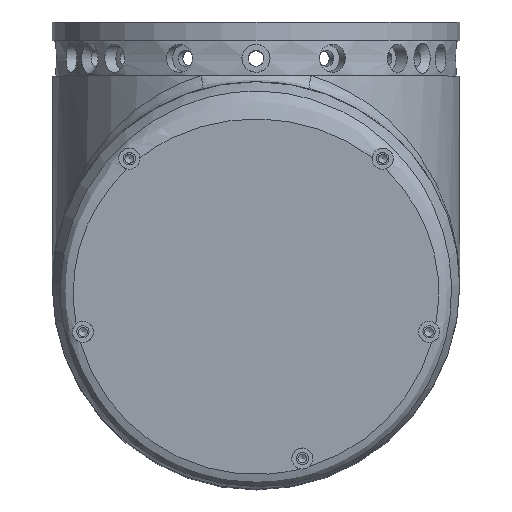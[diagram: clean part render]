
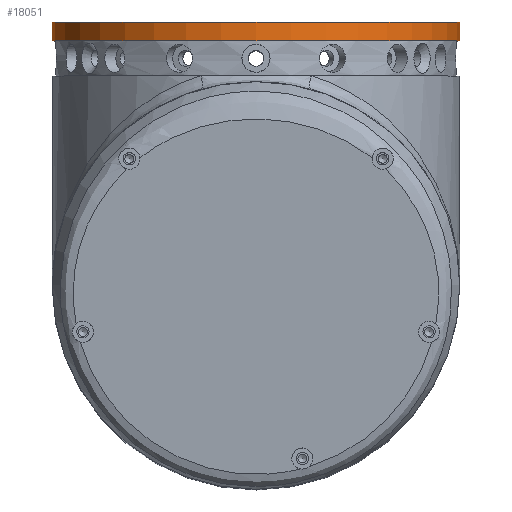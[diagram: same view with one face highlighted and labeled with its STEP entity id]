
A CAD part, top view. The second image highlights one B-rep face of the part: STEP entity #18051.
In plain terms, the highlighted cylindrical face has radius 58 mm (diameter 116 mm), a full revolution.
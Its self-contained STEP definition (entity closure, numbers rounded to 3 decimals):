
#166 = DIRECTION ( 'NONE',  ( 0., 1., 0. ) ) ;
#4489 = DIRECTION ( 'NONE',  ( 0., 1., 0. ) ) ;
#4829 = EDGE_LOOP ( 'NONE', ( #5004 ) ) ;
#5004 = ORIENTED_EDGE ( 'NONE', *, *, #34923, .T. ) ;
#6457 = EDGE_LOOP ( 'NONE', ( #29697 ) ) ;
#10108 = CYLINDRICAL_SURFACE ( 'NONE', #25773, 58. ) ;
#12309 = VERTEX_POINT ( 'NONE', #18026 ) ;
#13489 = CIRCLE ( 'NONE', #14111, 58. ) ;
#14111 = AXIS2_PLACEMENT_3D ( 'NONE', #34741, #4489, #16152 ) ;
#15576 = CARTESIAN_POINT ( 'NONE',  ( 0., 69.7, 58. ) ) ;
#15848 = FACE_OUTER_BOUND ( 'NONE', #6457, .T. ) ;
#16152 = DIRECTION ( 'NONE',  ( 0., 0., 1. ) ) ;
#18026 = CARTESIAN_POINT ( 'NONE',  ( 0., 69.7, 116. ) ) ;
#18051 = ADVANCED_FACE ( 'NONE', ( #21416, #15848 ), #10108, .T. ) ;
#19593 = DIRECTION ( 'NONE',  ( 0., 1., 0. ) ) ;
#20892 = VERTEX_POINT ( 'NONE', #33334 ) ;
#21416 = FACE_OUTER_BOUND ( 'NONE', #4829, .T. ) ;
#21967 = AXIS2_PLACEMENT_3D ( 'NONE', #15576, #166, #35771 ) ;
#23519 = EDGE_CURVE ( 'NONE', #20892, #20892, #13489, .T. ) ;
#25773 = AXIS2_PLACEMENT_3D ( 'NONE', #29316, #19593, #31864 ) ;
#29316 = CARTESIAN_POINT ( 'NONE',  ( 0., -58.001, 58. ) ) ;
#29697 = ORIENTED_EDGE ( 'NONE', *, *, #23519, .F. ) ;
#31864 = DIRECTION ( 'NONE',  ( 0., 0., 1. ) ) ;
#33334 = CARTESIAN_POINT ( 'NONE',  ( 0., 75., 116. ) ) ;
#34741 = CARTESIAN_POINT ( 'NONE',  ( 0., 75., 58. ) ) ;
#34923 = EDGE_CURVE ( 'NONE', #12309, #12309, #38975, .T. ) ;
#35771 = DIRECTION ( 'NONE',  ( 0., 0., 1. ) ) ;
#38975 = CIRCLE ( 'NONE', #21967, 58. ) ;
